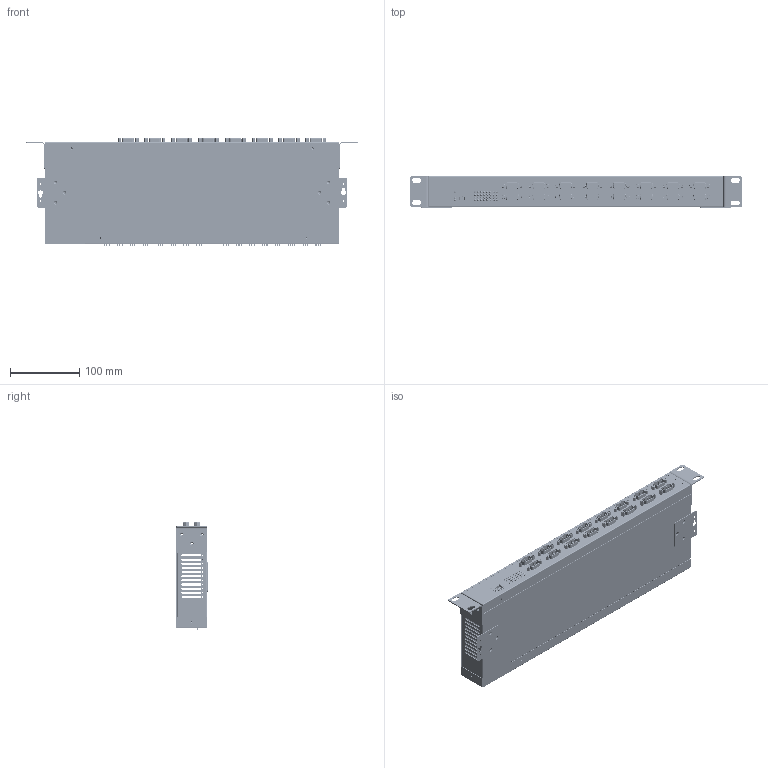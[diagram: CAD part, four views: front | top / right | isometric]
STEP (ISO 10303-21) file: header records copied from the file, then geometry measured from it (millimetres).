
FILE_DESCRIPTION(/* description */ (''),/* implementation_level */ '2;1');
FILE_NAME(/* name */ '/Users/leo/Desktop/Coolgear May/USB-16COMi-RM/USB-16COMi-RM Render LPV1.step',/* time_stamp */ '2021-10-06T10:45:19-04:00',/* author */ (''),/* organization */ (''),/* preprocessor_version */ 'ST-DEVELOPER v18.1',/* originating_system */ 'Autodesk Translation Framework v10.10.0.1391',/* authorisation */ '');
FILE_SCHEMA (('AUTOMOTIVE_DESIGN { 1 0 10303 214 3 1 1 }'));
Products named in the file (131): USB-16COMi-RM; Component1; 93090A547_Press-Fit Threaded Standoffs; 93090A547_Press-Fit Threaded Standoffs (1); Component5; Component6; Terminator v1; Terminator v1(Mirror); 1333N21_IEC Connector; USB type B first Gen White v3; Housing1; pin1; shielding; pin2; shielding_2; Housing3; Component18; Serial Port v1; Component19; Bolt M3X0.5 100Angle 5mmHead.5 China 120ang METRIC 18-8 SS FLAT HEAD 
PHIL MACHINE SCREW v2; LED 1 Block mounting pcb v2; User_Library-Led_3mm_Dialight_mod__551-1107F; LED 2 Block mounting pcb v4; 6611124864; 6611124480; 6662586176; 6662585792; 6662585408; LED 2 Block mounting pcb v4_1; 6611124864_1; 6611124480_1; 6662586176_1; 6662585792_1; 6662585408_1; LED 2 Block mounting pcb v4_2; 6611124864_2; 6611124480_2; 6662586176_2; 6662585792_2; 6662585408_2 ...
Assembly tree (257 placements, depth 4):
  USB-16COMi-RM
    Component1
    93090A547_Press-Fit Threaded Standoffs  x7
    93090A547_Press-Fit Threaded Standoffs (1)  x3
    Component5
    Component6
    Terminator v1  x8
    Terminator v1(Mirror)  x8
    1333N21_IEC Connector
    USB type B first Gen White v3
      Housing1
      pin1  x2
      shielding
      pin2  x2
      shielding_2
      Housing3
    Serial Port v1  x16
    Component18
    Component19
    Bolt M3X0.5 100Angle 5mmHead.5 China 120ang METRIC 18-8 SS FLAT HEAD 
PHIL MACHINE SCREW v2  x8
    LED 1 Block mounting pcb v2
      User_Library-Led_3mm_Dialight_mod__551-1107F
    LED 2 Block mounting pcb v4
      6611124864
        Sphere
      6611124480
        Sphere (1)
      6662586176
        Extruded
      6662585792
        Cylinder
      6662585408
        Cylinder (1)
    LED 2 Block mounting pcb v4_1
      6611124864_1
        Sphere
      6611124480_1
        Sphere (1)
      6662586176_1
        Extruded
      6662585792_1
        Cylinder
      6662585408_1
        Cylinder (1)
    LED 2 Block mounting pcb v4_2
      6611124864_2
        Sphere
      6611124480_2
        Sphere (1)
      6662586176_2
        Extruded
      6662585792_2
        Cylinder
      6662585408_2
        Cylinder (1)
    LED 2 Block mounting pcb v4_3
      6611124864_3
        Sphere
      6611124480_3
        Sphere (1)
Bounding box: 480.4 x 45.4 x 155.08 mm (x, y, z)
Volume: 353458.2 mm3; surface area: 558318.1 mm2
Topology: 5 solids, 14 shells, 6933 faces, 18766 edges, 12252 vertices
Faces by surface type: plane 4880, cylinder 1374, cone 235, sphere 179, torus 166, bspline 99
Full cylindrical faces by diameter (mm): 1 x144, 1.65 x3, 2 x3, 2.35 x28, 2.529 x30, 2.6 x32, 2.8 x32, 2.89 x1, 3 x85, 3.26 x35, 3.5 x7, 4.765 x3, 5.4 x10
Entity records: 254232 total; most frequent: CARTESIAN_POINT 76921, ORIENTED_EDGE 37020, DIRECTION 34672, EDGE_CURVE 18510, LINE 14128, VECTOR 14128, VERTEX_POINT 12213, AXIS2_PLACEMENT_3D 10272
